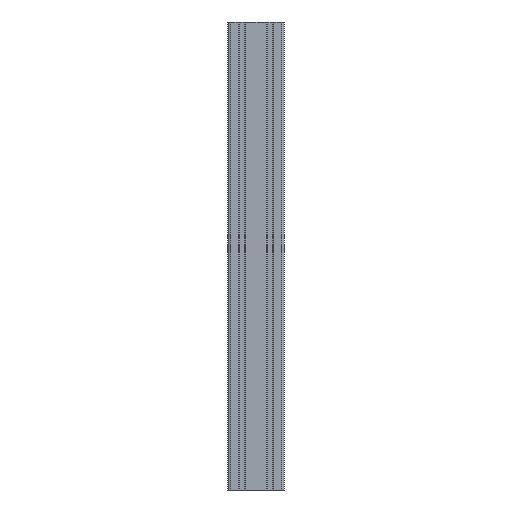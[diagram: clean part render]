
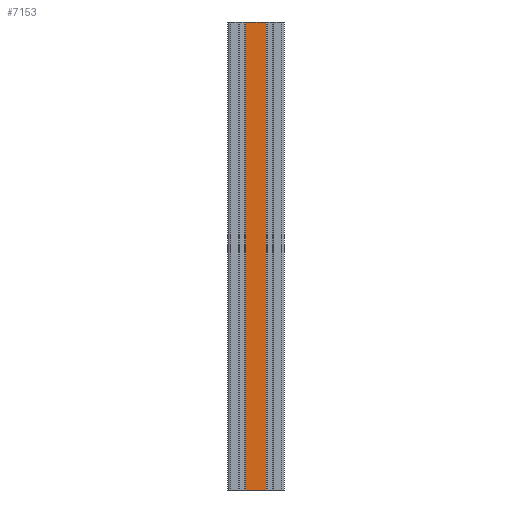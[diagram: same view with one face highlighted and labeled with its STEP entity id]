
A CAD part, front view. The second image highlights one B-rep face of the part: STEP entity #7153.
In plain terms, the highlighted planar face has unit normal (0, -1, 0).
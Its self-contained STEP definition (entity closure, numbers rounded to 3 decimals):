
#254 = DIRECTION ( 'NONE',  ( 0., 0., 1. ) ) ;
#290 = LINE ( 'NONE', #5642, #694 ) ;
#423 = CARTESIAN_POINT ( 'NONE',  ( -10.9, -30., 250. ) ) ;
#491 = CARTESIAN_POINT ( 'NONE',  ( -30., -30., 250. ) ) ;
#587 = CARTESIAN_POINT ( 'NONE',  ( 10.9, -30., -250. ) ) ;
#694 = VECTOR ( 'NONE', #10188, 1000. ) ;
#886 = VECTOR ( 'NONE', #8755, 1000. ) ;
#890 = ORIENTED_EDGE ( 'NONE', *, *, #7813, .F. ) ;
#1332 = CARTESIAN_POINT ( 'NONE',  ( -30., -30., -334.853 ) ) ;
#1350 = CARTESIAN_POINT ( 'NONE',  ( 10.9, -30., 250. ) ) ;
#2094 = CARTESIAN_POINT ( 'NONE',  ( 10.9, -30., -250. ) ) ;
#2280 = VERTEX_POINT ( 'NONE', #3304 ) ;
#3304 = CARTESIAN_POINT ( 'NONE',  ( -10.9, -30., -250. ) ) ;
#3654 = EDGE_LOOP ( 'NONE', ( #3840, #5956, #8172, #890 ) ) ;
#3840 = ORIENTED_EDGE ( 'NONE', *, *, #8518, .F. ) ;
#4095 = EDGE_CURVE ( 'NONE', #7788, #5195, #10265, .T. ) ;
#4353 = LINE ( 'NONE', #7855, #886 ) ;
#5195 = VERTEX_POINT ( 'NONE', #1350 ) ;
#5499 = AXIS2_PLACEMENT_3D ( 'NONE', #1332, #8507, #9372 ) ;
#5642 = CARTESIAN_POINT ( 'NONE',  ( -10.9, -30., -250. ) ) ;
#5851 = FACE_OUTER_BOUND ( 'NONE', #3654, .T. ) ;
#5956 = ORIENTED_EDGE ( 'NONE', *, *, #9971, .T. ) ;
#6211 = VECTOR ( 'NONE', #254, 1000. ) ;
#6709 = DIRECTION ( 'NONE',  ( 1., 0., 0. ) ) ;
#7153 = ADVANCED_FACE ( 'NONE', ( #5851 ), #8434, .T. ) ;
#7348 = VERTEX_POINT ( 'NONE', #587 ) ;
#7788 = VERTEX_POINT ( 'NONE', #423 ) ;
#7813 = EDGE_CURVE ( 'NONE', #2280, #7788, #290, .T. ) ;
#7855 = CARTESIAN_POINT ( 'NONE',  ( -30., -30., -250. ) ) ;
#8172 = ORIENTED_EDGE ( 'NONE', *, *, #4095, .F. ) ;
#8434 = PLANE ( 'NONE',  #5499 ) ;
#8507 = DIRECTION ( 'NONE',  ( 0., -1., 0. ) ) ;
#8518 = EDGE_CURVE ( 'NONE', #7348, #2280, #4353, .T. ) ;
#8755 = DIRECTION ( 'NONE',  ( -1., 0., 0. ) ) ;
#9372 = DIRECTION ( 'NONE',  ( 1., 0., 0. ) ) ;
#9971 = EDGE_CURVE ( 'NONE', #7348, #5195, #11250, .T. ) ;
#10188 = DIRECTION ( 'NONE',  ( 0., 0., 1. ) ) ;
#10265 = LINE ( 'NONE', #491, #11516 ) ;
#11250 = LINE ( 'NONE', #2094, #6211 ) ;
#11516 = VECTOR ( 'NONE', #6709, 1000. ) ;
